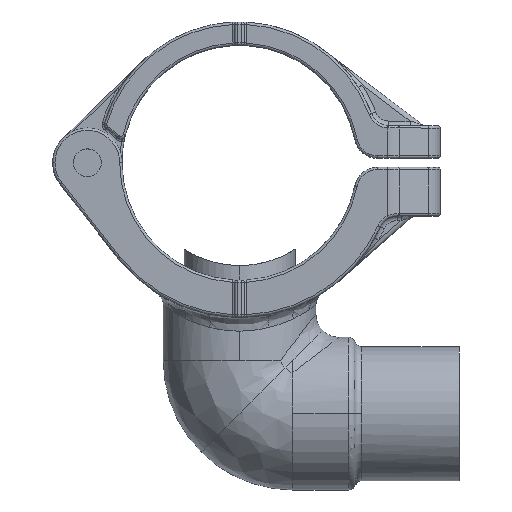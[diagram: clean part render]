
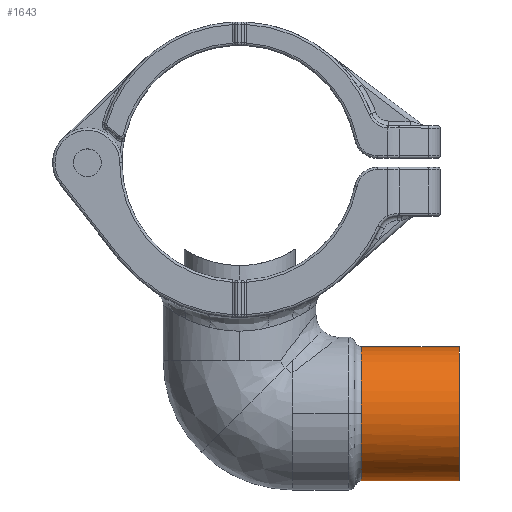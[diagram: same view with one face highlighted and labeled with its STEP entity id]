
A CAD part, top view. The second image highlights one B-rep face of the part: STEP entity #1643.
In plain terms, the highlighted cylindrical face has radius 14.5 mm (diameter 29 mm), a partial arc.
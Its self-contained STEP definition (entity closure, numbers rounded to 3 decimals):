
#425=CYLINDRICAL_SURFACE('',#7850,14.5);
#708=CIRCLE('',#7839,14.5);
#714=CIRCLE('',#7847,14.5);
#715=CIRCLE('',#7848,14.5);
#716=CIRCLE('',#7849,14.5);
#1145=LINE('',#12613,#1365);
#1146=LINE('',#12619,#1366);
#1365=VECTOR('',#9194,1.);
#1366=VECTOR('',#9199,1.);
#1643=ADVANCED_FACE('',(#2122),#425,.T.);
#2122=FACE_OUTER_BOUND('',#2539,.T.);
#2539=EDGE_LOOP('',(#3824,#3825,#3826,#3827,#3828,#3829));
#3824=ORIENTED_EDGE('',*,*,#6479,.F.);
#3825=ORIENTED_EDGE('',*,*,#6480,.F.);
#3826=ORIENTED_EDGE('',*,*,#6475,.F.);
#3827=ORIENTED_EDGE('',*,*,#6471,.F.);
#3828=ORIENTED_EDGE('',*,*,#6478,.T.);
#3829=ORIENTED_EDGE('',*,*,#6481,.F.);
#5532=VERTEX_POINT('',#12606);
#5533=VERTEX_POINT('',#12607);
#5535=VERTEX_POINT('',#12614);
#5537=VERTEX_POINT('',#12618);
#5538=VERTEX_POINT('',#12622);
#5539=VERTEX_POINT('',#12623);
#6471=EDGE_CURVE('',#5532,#5533,#708,.T.);
#6475=EDGE_CURVE('',#5533,#5535,#1145,.T.);
#6478=EDGE_CURVE('',#5532,#5537,#1146,.T.);
#6479=EDGE_CURVE('',#5538,#5539,#714,.T.);
#6480=EDGE_CURVE('',#5535,#5538,#715,.T.);
#6481=EDGE_CURVE('',#5539,#5537,#716,.T.);
#7839=AXIS2_PLACEMENT_3D('',#12605,#9184,#9185);
#7847=AXIS2_PLACEMENT_3D('',#12621,#9202,#9203);
#7848=AXIS2_PLACEMENT_3D('',#12624,#9204,#9205);
#7849=AXIS2_PLACEMENT_3D('',#12625,#9206,#9207);
#7850=AXIS2_PLACEMENT_3D('',#12626,#9208,#9209);
#9184=DIRECTION('',(1.,0.,0.));
#9185=DIRECTION('',(0.,1.,0.));
#9194=DIRECTION('',(-1.,0.,0.));
#9199=DIRECTION('',(-1.,0.,0.));
#9202=DIRECTION('',(-1.,0.,0.));
#9203=DIRECTION('',(0.,-0.809,0.588));
#9204=DIRECTION('',(-1.,0.,0.));
#9205=DIRECTION('',(0.,-1.,0.));
#9206=DIRECTION('',(-1.,0.,0.));
#9207=DIRECTION('',(0.,0.,1.));
#9208=DIRECTION('',(1.,0.,0.));
#9209=DIRECTION('',(0.,-1.,0.));
#12605=CARTESIAN_POINT('',(87.9,16.5,-21.));
#12606=CARTESIAN_POINT('',(87.9,31.,-21.));
#12607=CARTESIAN_POINT('',(87.9,2.,-21.));
#12613=CARTESIAN_POINT('',(87.9,2.,-21.));
#12614=CARTESIAN_POINT('',(66.728,2.,-21.));
#12618=CARTESIAN_POINT('',(66.728,31.,-21.));
#12619=CARTESIAN_POINT('',(87.9,31.,-21.));
#12621=CARTESIAN_POINT('',(66.728,16.5,-21.));
#12622=CARTESIAN_POINT('',(66.728,4.769,-12.477));
#12623=CARTESIAN_POINT('',(66.728,16.5,-6.5));
#12624=CARTESIAN_POINT('',(66.728,16.5,-21.));
#12625=CARTESIAN_POINT('',(66.728,16.5,-21.));
#12626=CARTESIAN_POINT('',(90.4,16.5,-21.));
